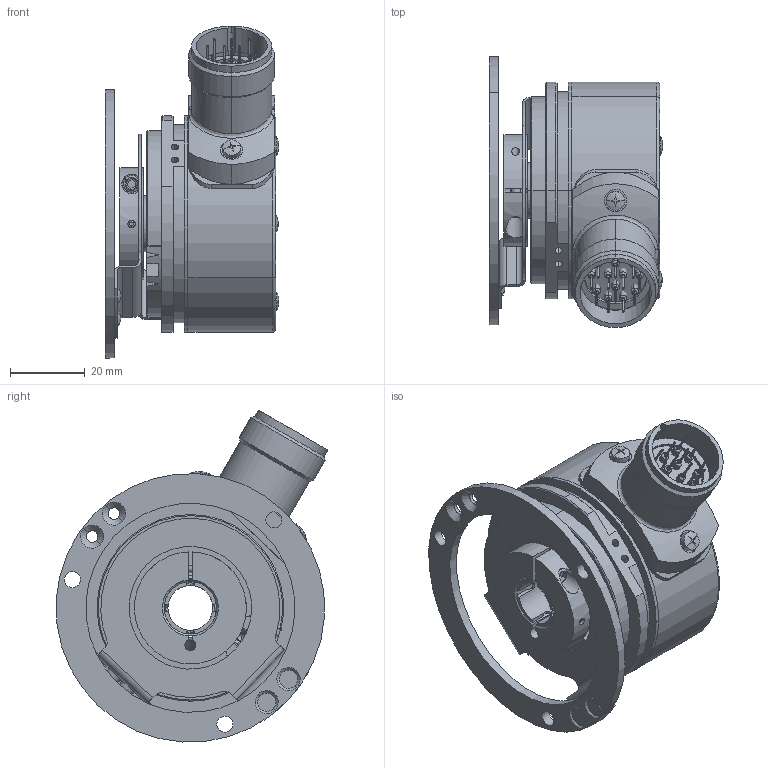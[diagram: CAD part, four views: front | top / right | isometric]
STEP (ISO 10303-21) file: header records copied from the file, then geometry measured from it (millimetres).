
FILE_DESCRIPTION (( 'STEP AP214' ), '1' );
FILE_NAME ('5825.37X2.XXXX.STEP', '2011-05-30T06:04:56', ( 'admin' ), ( 'Fritz Kübler GmbH' ), 'SwSTEP 2.0', 'SolidWorks 2009', '' );
FILE_SCHEMA (( 'AUTOMOTIVE_DESIGN' ));
Length unit declared in the file: millimetre
Products named in the file (1): 5825.37X2.XXXX
Bounding box: 46.58 x 72.74 x 88.94 mm (x, y, z)
Volume: 59457.7 mm3; surface area: 49603.2 mm2
Topology: 34 solids, 34 shells, 1054 faces, 2415 edges, 1487 vertices
Faces by surface type: cylinder 478, plane 306, cone 160, torus 68, sphere 38, bspline 4
Entity records: 44196 total; most frequent: CARTESIAN_POINT 7717, DIRECTION 5591, ORIENTED_EDGE 4726, EDGE_CURVE 2363, AXIS2_PLACEMENT_3D 2295, VERTEX_POINT 1487, EDGE_LOOP 1248, CIRCLE 1244
